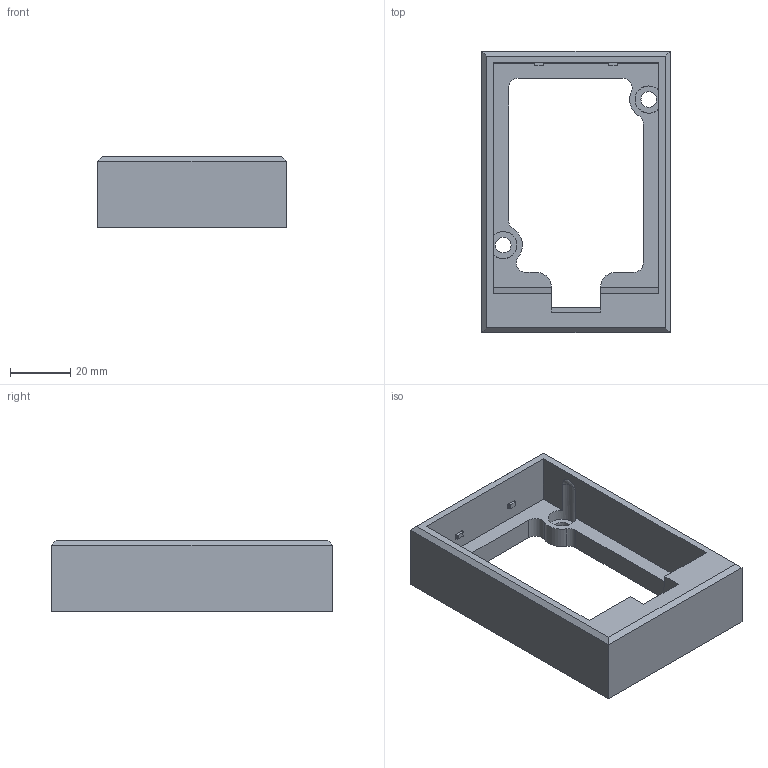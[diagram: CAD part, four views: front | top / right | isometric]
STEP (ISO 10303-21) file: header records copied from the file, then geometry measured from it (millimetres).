
FILE_DESCRIPTION(/* description */ (''),/* implementation_level */ '2;1');
FILE_NAME(/* name */ 'cp vfd interface holder.stp',/* time_stamp */ '2025-02-20T11:37:21-05:00',/* author */ ('Mike'),/* organization */ (''),/* preprocessor_version */ 'ST-DEVELOPER v20',/* originating_system */ 'Autodesk Inventor 2025',/* authorisation */ '');
FILE_SCHEMA (('AUTOMOTIVE_DESIGN { 1 0 10303 214 3 1 1 }'));
Length unit declared in the file: inch
Products named in the file (1): cp vfd interface holder
Bounding box: 62.53 x 93.18 x 23.5 mm (x, y, z)
Volume: 43616.5 mm3; surface area: 19248.1 mm2
Topology: 1 solids, 1 shells, 72 faces, 194 edges, 126 vertices
Faces by surface type: plane 46, cylinder 24, sphere 2
Full cylindrical faces by diameter (mm): 5.207 x2, 9.017 x2
Entity records: 2305 total; most frequent: CARTESIAN_POINT 393, DIRECTION 390, ORIENTED_EDGE 388, EDGE_CURVE 194, LINE 144, VECTOR 144, VERTEX_POINT 126, AXIS2_PLACEMENT_3D 123
